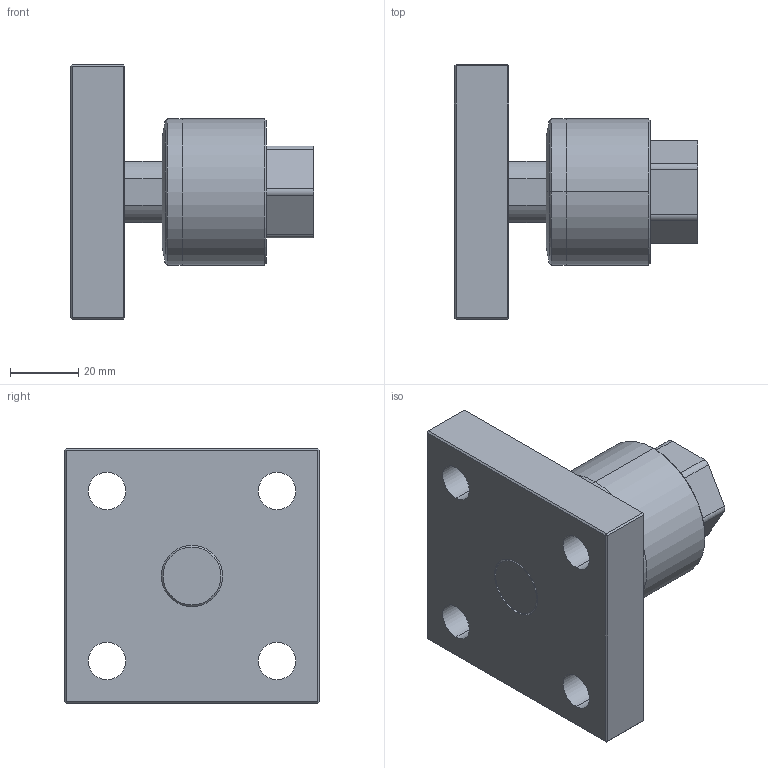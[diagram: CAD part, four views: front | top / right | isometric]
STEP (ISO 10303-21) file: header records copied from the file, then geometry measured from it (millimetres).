
FILE_DESCRIPTION (( 'STEP AP203' ), '1' );
FILE_NAME ('FCM18A-1.5-F.STEP', '2016-04-14T01:58:54', ( '' ), ( '' ), 'SwSTEP 2.0', 'SolidWorks 2014', '' );
FILE_SCHEMA (( 'CONFIG_CONTROL_DESIGN' ));
Length unit declared in the file: millimetre
Products named in the file (3): FCM18A-1.5(F); FCM18A-1.5-F; FCM18A-F
Assembly tree (2 placements, depth 2):
  FCM18A-1.5-F
    FCM18A-1.5(F)
    FCM18A-F
Bounding box: 71.5 x 75 x 75 mm (x, y, z)
Volume: 135507.9 mm3; surface area: 28346.1 mm2
Topology: 2 solids, 2 shells, 82 faces, 186 edges, 109 vertices
Faces by surface type: plane 44, cylinder 28, cone 10
Entity records: 2569 total; most frequent: DIRECTION 422, CARTESIAN_POINT 380, ORIENTED_EDGE 368, EDGE_CURVE 184, AXIS2_PLACEMENT_3D 151, LINE 120, VECTOR 120, VERTEX_POINT 109
